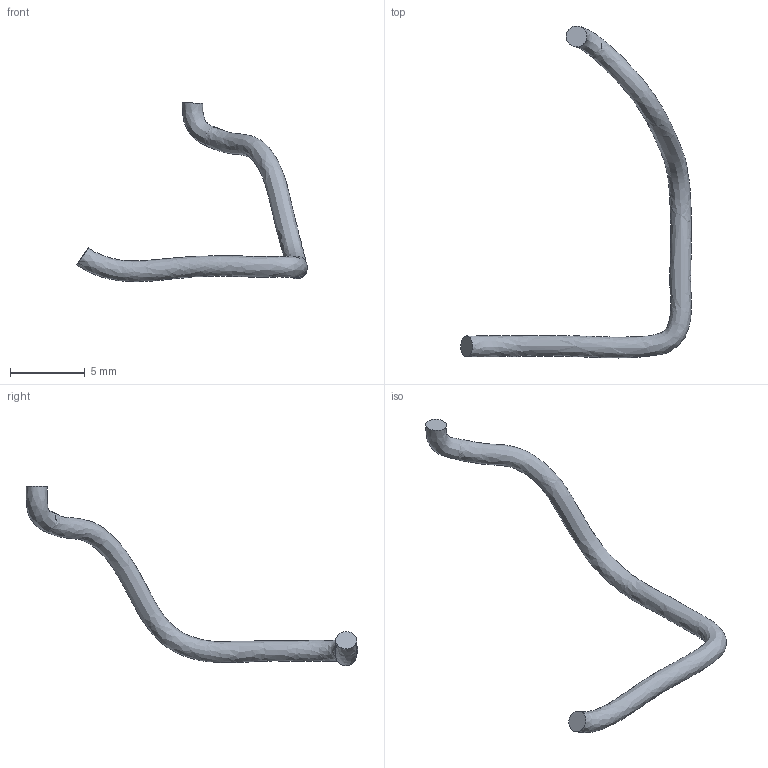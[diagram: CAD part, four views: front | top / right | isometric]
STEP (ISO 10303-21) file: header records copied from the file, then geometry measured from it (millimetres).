
FILE_DESCRIPTION(('Open CASCADE Model'),'2;1');
FILE_NAME('Open CASCADE Shape Model','2026-11-23T18:10:19',('Author'),( 'Open CASCADE'),'Open CASCADE STEP processor 8.0','build123d', 'Unknown');
FILE_SCHEMA(('AUTOMOTIVE_DESIGN { 1 0 10303 214 1 1 1 1 }'));
Length unit declared in the file: millimetre
Products named in the file (1): SOLID
Bounding box: 15.43 x 22.18 x 12 mm (x, y, z)
Volume: 64.8 mm3; surface area: 188.4 mm2
Topology: 1 solids, 1 shells, 3 faces, 3 edges, 2 vertices
Faces by surface type: plane 2, bspline 1
Entity records: 6732 total; most frequent: CARTESIAN_POINT 6662, DIRECTION 9, ORIENTED_EDGE 6, PCURVE 6, DEFINITIONAL_REPRESENTATION 6, AXIS2_PLACEMENT_3D 3, ADVANCED_FACE 3, FACE_BOUND 3
